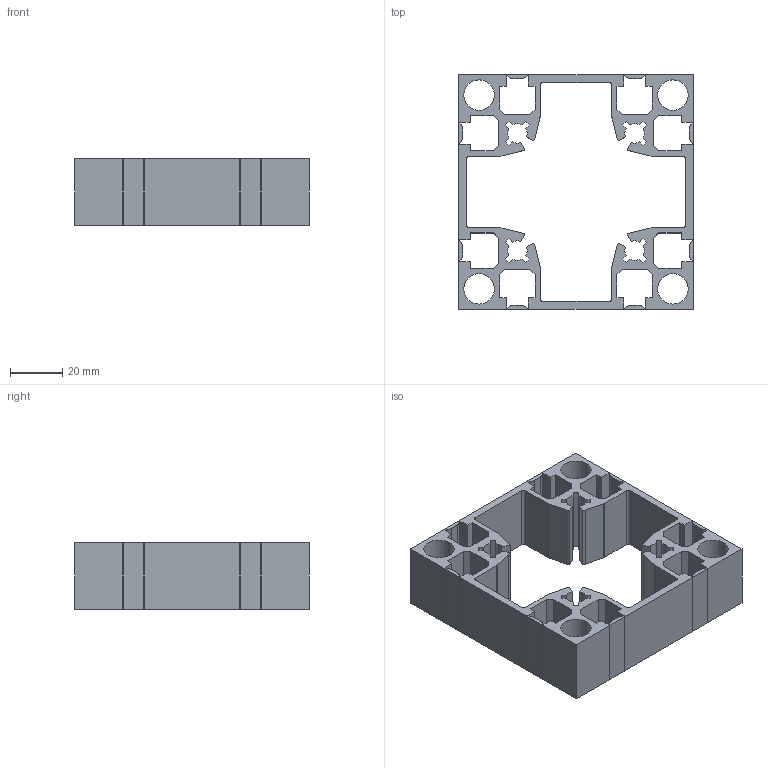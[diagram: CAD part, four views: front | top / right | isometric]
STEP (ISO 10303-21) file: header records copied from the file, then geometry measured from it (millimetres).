
FILE_DESCRIPTION((''),'2;1');
FILE_NAME('C:\Documents and Settings\Administrator\My Documents\Andys Backup Data\WEBSITE\DREAMWEAVER\MiniTec\Products\Aluminum_Profiles\CAD\STEP\20.1082 90X90 G.stp','2012-11-13T10:56:20',('Administrator'),(''),'Autodesk Inventor 2009','Autodesk Inventor 2009','');
FILE_SCHEMA(('AUTOMOTIVE_DESIGN { 1 0 10303 214 1 1 1 1 }'));
Length unit declared in the file: inch
Products named in the file (1): 20.1082 90X90 G
Bounding box: 90 x 90 x 25.4 mm (x, y, z)
Volume: 50376.8 mm3; surface area: 39337 mm2
Topology: 1 solids, 1 shells, 242 faces, 720 edges, 480 vertices
Faces by surface type: plane 182, cylinder 60
Full cylindrical faces by diameter (mm): 11.7 x4
Entity records: 8124 total; most frequent: CARTESIAN_POINT 1439, ORIENTED_EDGE 1432, DIRECTION 1322, EDGE_CURVE 716, VECTOR 596, LINE 596, VERTEX_POINT 480, AXIS2_PLACEMENT_3D 363
